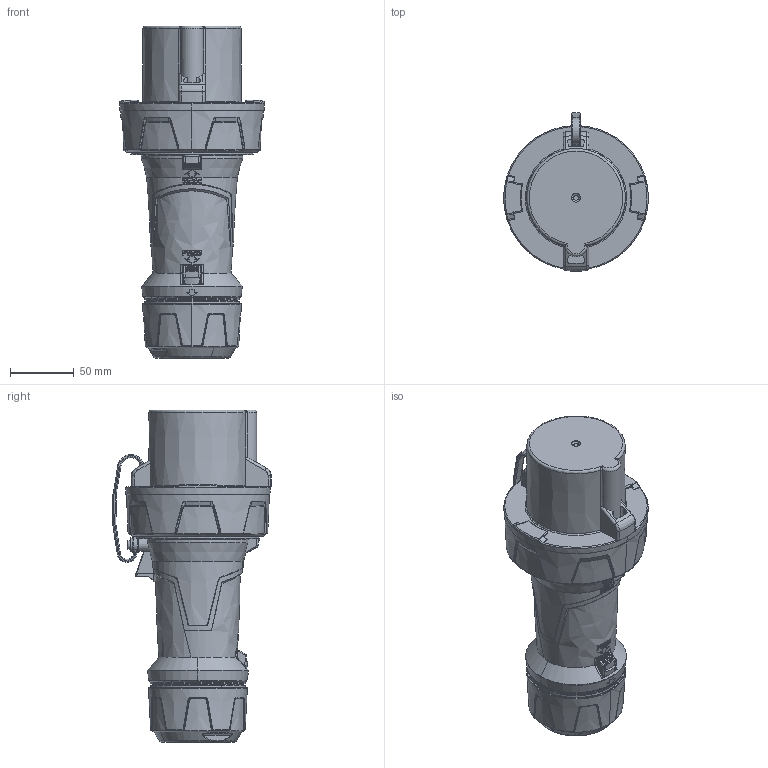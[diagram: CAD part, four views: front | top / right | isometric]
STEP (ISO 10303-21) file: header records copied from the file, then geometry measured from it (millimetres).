
FILE_DESCRIPTION((''),'2;1');
FILE_NAME('PR267_13212_FUER_ANLE_SW0002','2018-03-05T',('gisse'),('MENNEKES'),'PRO/ENGINEER BY PARAMETRIC TECHNOLOGY CORPORATION, 2015440','PRO/ENGINEER BY PARAMETRIC TECHNOLOGY CORPORATION, 2015440','');
FILE_SCHEMA(('AUTOMOTIVE_DESIGN { 1 0 10303 214 1 1 1 1 }'));
Products named in the file (1): PR267_13212_FUER_ANLE_SW0002
Bounding box: 113.22 x 124.11 x 260 mm (x, y, z)
Volume: 1296931.4 mm3; surface area: 98828.1 mm2
Topology: 1 solids, 1 shells, 1472 faces, 3860 edges, 2413 vertices
Faces by surface type: bspline 440, plane 300, cylinder 246, extrusion 209, torus 146, cone 117, sphere 10, revolution 4
Entity records: 93261 total; most frequent: CARTESIAN_POINT 33139, ORIENTED_EDGE 7720, PRESENTATION_STYLE_ASSIGNMENT 5546, DIRECTION 4831, STYLED_ITEM 4074, CURVE_STYLE 4073, EDGE_CURVE 3860, FILL_AREA_STYLE_COLOUR 2602
